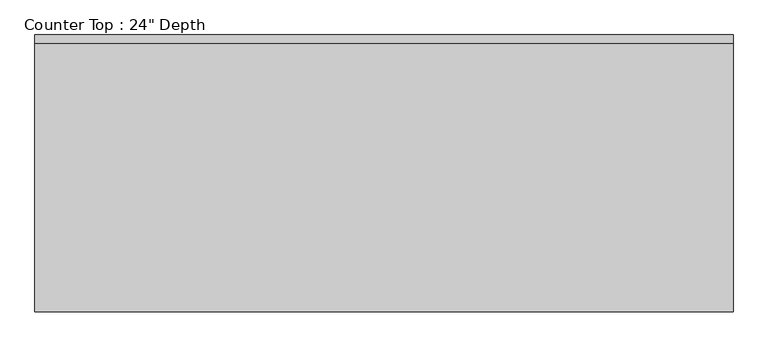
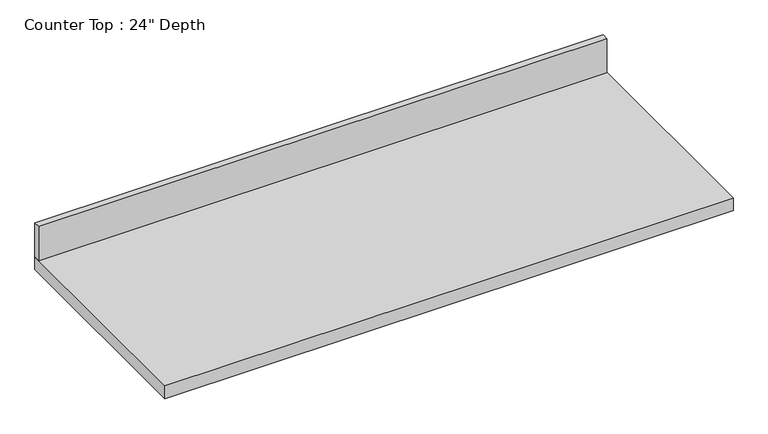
"""IFC4 building model written with IfcOpenShell, lengths in millimetres: furniture geometry."""

from ifc_helpers import new_model, si_unit, frame, origin, place, context, project, spatial, polyline, outline, extrude, source, transform, mapped, element, save


def furniture_7ee350fa(model_context):
    return source(origin(), model_context, "Body", "SweptSolid", [
        extrude(outline(polyline([(-1200.4622951, 0.0), (401.351317, 0.0), (401.351317, -19.05), (-1200.4622951, -19.05), (-1200.4622951, 0.0)])), frame((0.0, 0.0, 914.4), z_axis=(0.0, 0.0, 1.0), x_axis=(1.0, 0.0, 0.0)), (0.0, 0.0, 1.0), 101.6),
        extrude(outline(polyline([(401.351317, 0.0), (401.351317, -635.0), (-1200.4622951, -635.0), (-1200.4622951, 0.0), (401.351317, 0.0)])), frame((0.0, 0.0, 876.3), z_axis=(0.0, 0.0, 1.0), x_axis=(1.0, 0.0, 0.0)), (0.0, 0.0, 1.0), 38.1),
    ])


if __name__ == "__main__":
    model = new_model("IFC4")
    model_context = context("Model", 3, world=origin())
    ifc_project = project(units=[si_unit("LENGTHUNIT", "METRE", prefix="MILLI")], contexts=[model_context])
    site = spatial("IfcSite", under=ifc_project)
    building = spatial("IfcBuilding", under=site)
    placement = place(None, origin())
    furniture_shape = furniture_7ee350fa(model_context)
    element("IfcFurniture", 1, ObjectType="Counter Top : 24\" Depth", at=placement, inside=building, context=model_context, shape_type="MappedRepresentation", body=[
        mapped(furniture_shape, transform((0.0, 0.0, 0.0), x_axis=(1.0, 0.0, 0.0), y_axis=(0.0, 1.0, 0.0), z_axis=(0.0, 0.0, 1.0))),
    ])
    save(model, "model.ifc")
